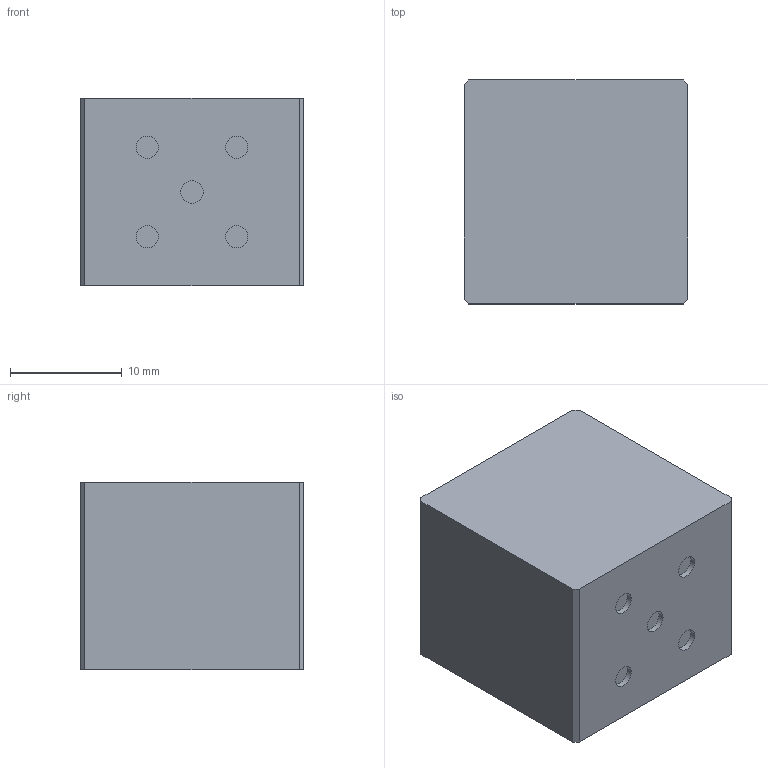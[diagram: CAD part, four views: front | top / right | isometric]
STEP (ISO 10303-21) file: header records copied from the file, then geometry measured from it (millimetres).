
FILE_DESCRIPTION(('Open CASCADE Model'),'2;1');
FILE_NAME('Open CASCADE Shape Model','2026-08-23T08:04:38',('Author'),( 'Open CASCADE'),'Open CASCADE STEP processor 7.9','Open CASCADE 7.9' ,'Unknown');
FILE_SCHEMA(('AUTOMOTIVE_DESIGN { 1 0 10303 214 1 1 1 1 }'));
Length unit declared in the file: millimetre
Products named in the file (2): =>[0:1:1:2]; COMPOUND
Assembly tree (1 placements, depth 2):
  =>[0:1:1:2]
    COMPOUND
Bounding box: 20 x 20 x 16.75 mm (x, y, z)
Volume: 6686.8 mm3; surface area: 2139.4 mm2
Topology: 1 solids, 1 shells, 20 faces, 39 edges, 26 vertices
Faces by surface type: plane 15, cylinder 5
Full cylindrical faces by diameter (mm): 2 x5
Entity records: 1079 total; most frequent: CARTESIAN_POINT 195, DIRECTION 166, LINE 97, VECTOR 97, ORIENTED_EDGE 78, PCURVE 78, DEFINITIONAL_REPRESENTATION 78, EDGE_CURVE 39
